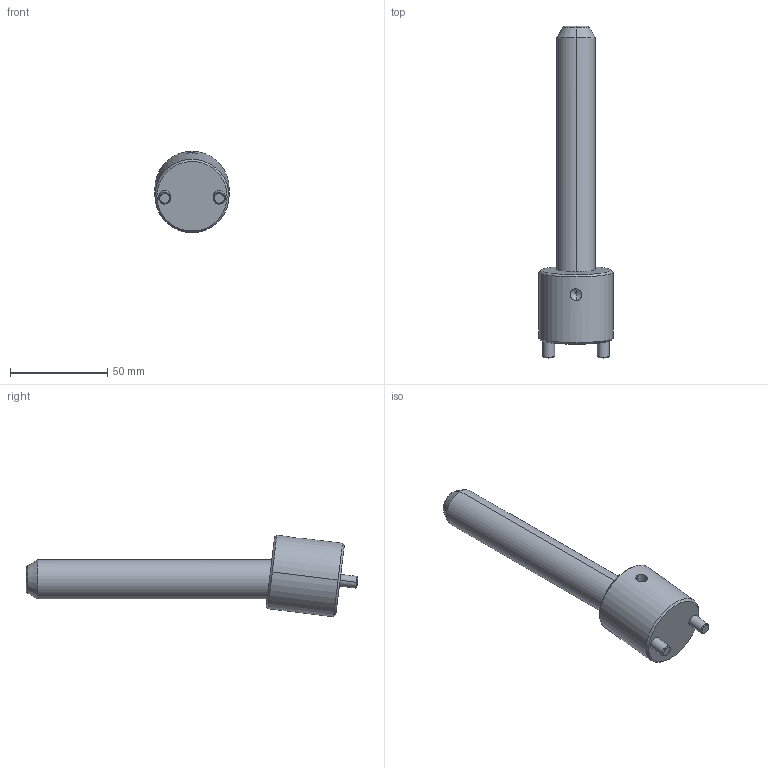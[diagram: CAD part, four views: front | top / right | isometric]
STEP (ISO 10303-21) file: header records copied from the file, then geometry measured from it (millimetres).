
FILE_DESCRIPTION(('CATIA V5 STEP Exchange'),'2;1');
FILE_NAME('C:\Users\Raffaele\Desktop\3D BOLEX\3D FILES CF BOLEX\19-INCLINED ASSEMBLY REF_CI\CI0720125.stp','2019-06-24T07:08:39+00:00',('none'),('none'),'CATIA Version 5 Release 20 GA (IN-10)','CATIA V5 STEP AP203','none');
FILE_SCHEMA(('CONFIG_CONTROL_DESIGN'));
Length unit declared in the file: millimetre
Products named in the file (1): CI0720125
Assembly tree (2 placements, depth 2):
  CI0720125
    #58
    #575
Bounding box: 38 x 170.46 x 41.86 mm (x, y, z)
Volume: 79349.6 mm3; surface area: 19037.4 mm2
Topology: 2 solids, 2 shells, 39 faces, 82 edges, 47 vertices
Faces by surface type: cone 14, cylinder 14, plane 7, torus 4
Entity records: 1509 total; most frequent: CARTESIAN_POINT 652, ORIENTED_EDGE 160, DIRECTION 144, EDGE_CURVE 80, AXIS2_PLACEMENT_3D 71, VERTEX_POINT 47, EDGE_LOOP 43, ADVANCED_FACE 39
